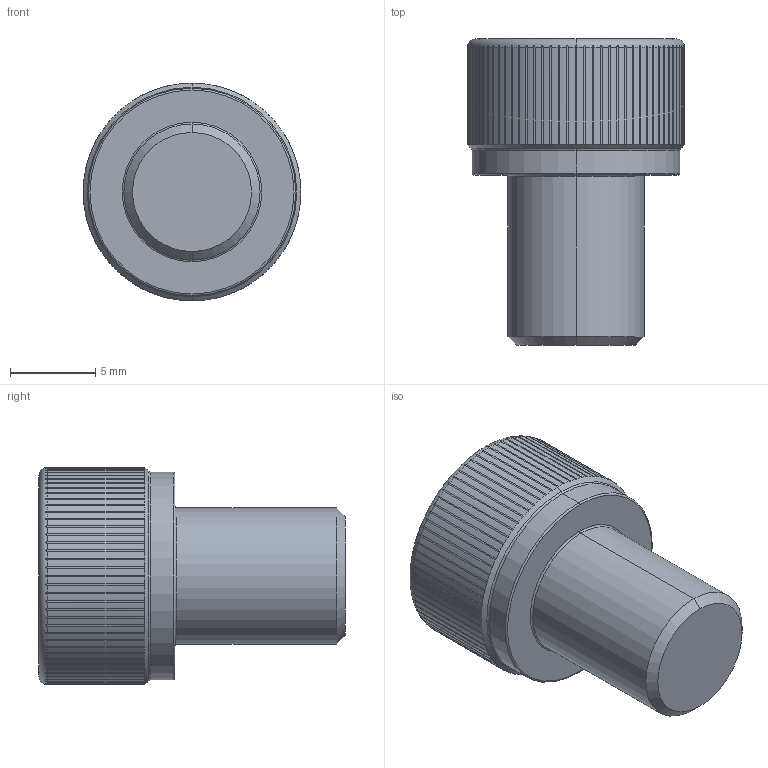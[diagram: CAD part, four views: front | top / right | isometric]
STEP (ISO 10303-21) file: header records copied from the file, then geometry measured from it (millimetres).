
FILE_DESCRIPTION (( 'STEP AP203' ), '1' );
FILE_NAME ('LGDT-304-M8x10.STEP', '2026-08-10T06:32:18', ( '' ), ( '' ), 'SwSTEP 2.0', 'SolidWorks 2020', '' );
FILE_SCHEMA (( 'CONFIG_CONTROL_DESIGN' ));
Length unit declared in the file: millimetre
Products named in the file (1): LGDT-304-M8x10
Bounding box: 12.8 x 18 x 12.8 mm (x, y, z)
Volume: 1351.1 mm3; surface area: 904.9 mm2
Topology: 1 solids, 1 shells, 204 faces, 576 edges, 376 vertices
Faces by surface type: cylinder 175, cone 11, plane 10, torus 8
Entity records: 8367 total; most frequent: CARTESIAN_POINT 3208, ORIENTED_EDGE 1152, DIRECTION 988, EDGE_CURVE 576, AXIS2_PLACEMENT_3D 398, VERTEX_POINT 376, EDGE_LOOP 206, ADVANCED_FACE 204
